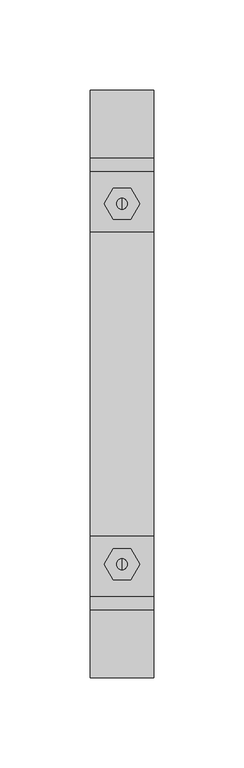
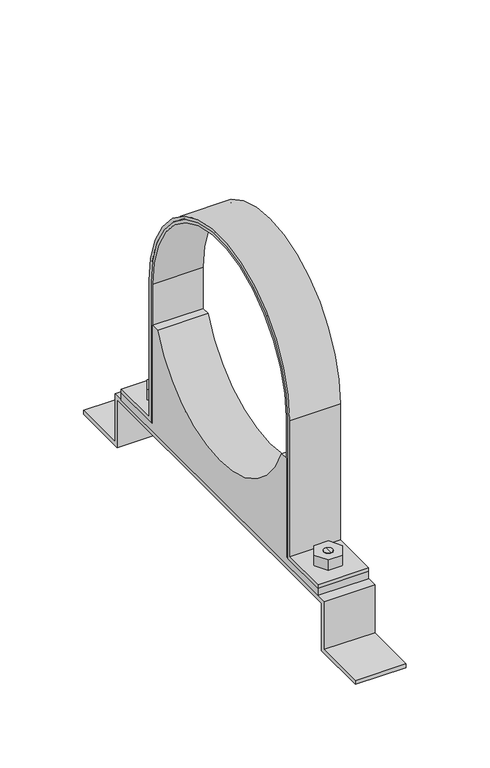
"""IFC4 building model written with IfcOpenShell, lengths in millimetres: valve geometry, Superfix DG3 Clamp (based on pipe) : Superfix DG3 Clamp (based on pipe)."""

from ifc_helpers import new_model, si_unit, point, frame, frame_2d, origin, place, context, project, spatial, polyline, circle_curve, trimmed, segment, composite_curve, outline, extrude, source, transform, mapped, element, save
from ifc_brep_helpers import plane_surface, cylinder_surface, advanced_brep


def valve_bf0c94fa(model_context):
    return source(origin(), model_context, "Body", "SolidModel", [
        advanced_brep(
        [(0.0, 102.75, 21.75), (0.0, 96.75, 21.75), (0.0, 96.75, 34.75), (0.0, 102.75, 34.75), (0.0, 99.75, 21.75)],
        [
            (0, 1, circle_curve(frame((0.0, 99.75, 21.75), z_axis=(0.0, 0.0, 1.0), x_axis=(0.0, 1.0, 0.0)), 3.0)),
            (1, 2),
            (2, 3, circle_curve(frame((0.0, 99.75, 34.75), z_axis=(0.0, 0.0, -1.0), x_axis=(0.0, 1.0, 0.0)), 3.0)),
            (3, 0),
            (1, 0, circle_curve(frame((0.0, 99.75, 21.75), z_axis=(0.0, 0.0, 1.0), x_axis=(0.0, 1.0, 0.0)), 3.0)),
            (3, 2, circle_curve(frame((0.0, 99.75, 34.75), z_axis=(0.0, 0.0, -1.0), x_axis=(0.0, 1.0, 0.0)), 3.0)),
            (0, 4),
            (4, 1),
        ],
        [
            cylinder_surface(frame((0.0, 99.75, 143.0306094), z_axis=(0.0, 0.0, 1.0), x_axis=(0.0, 1.0, 0.0)), 3.0),
            plane_surface(frame((0.0, 99.75, 21.75), z_axis=(0.0, 0.0, -1.0), x_axis=(0.0, 1.0, 0.0))),
            plane_surface(frame((13.75, -117.5, 34.75), z_axis=(0.0, 0.0, 1.0), x_axis=(-1.0, 0.0, 0.0))),
        ],
        [
            (0, [[1, 2, 3, 4]]),
            (0, [[5, -4, 6, -2]]),
            (1, [[-1, 7, 8]]),
            (1, [[-5, -8, -7]]),
            (2, [[-3, -6]]),
        ],
    ),
        advanced_brep(
        [(0.0, 96.75, 53.5), (0.0, 102.75, 53.5), (0.0, 102.75, 42.75), (0.0, 96.75, 42.75), (0.0, 99.75, 53.5)],
        [
            (0, 1, circle_curve(frame((0.0, 99.75, 53.5), z_axis=(0.0, 0.0, -1.0), x_axis=(0.0, 1.0, 0.0)), 3.0)),
            (1, 2),
            (2, 3, circle_curve(frame((0.0, 99.75, 42.75), z_axis=(0.0, 0.0, 1.0), x_axis=(0.0, 1.0, 0.0)), 3.0)),
            (3, 0),
            (1, 0, circle_curve(frame((0.0, 99.75, 53.5), z_axis=(0.0, 0.0, -1.0), x_axis=(0.0, 1.0, 0.0)), 3.0)),
            (3, 2, circle_curve(frame((0.0, 99.75, 42.75), z_axis=(0.0, 0.0, 1.0), x_axis=(0.0, 1.0, 0.0)), 3.0)),
            (0, 4),
            (4, 1),
        ],
        [
            cylinder_surface(frame((0.0, 99.75, 143.0306094), z_axis=(0.0, 0.0, 1.0), x_axis=(0.0, 1.0, 0.0)), 3.0),
            plane_surface(frame((0.0, 99.75, 53.5), z_axis=(0.0, 0.0, 1.0), x_axis=(0.0, 1.0, 0.0))),
            plane_surface(frame((13.75, 117.5, 42.75), z_axis=(0.0, 0.0, -1.0), x_axis=(-1.0, 0.0, 0.0))),
        ],
        [
            (0, [[1, 2, 3, 4]]),
            (0, [[5, -4, 6, -2]]),
            (1, [[-1, 7, 8]]),
            (1, [[-5, -8, -7]]),
            (2, [[-3, -6]]),
        ],
    ),
        advanced_brep(
        [(0.0, -102.75, 53.5), (0.0, -96.75, 53.5), (0.0, -96.75, 42.75), (0.0, -102.75, 42.75), (0.0, -99.75, 53.5)],
        [
            (0, 1, circle_curve(frame((0.0, -99.75, 53.5), z_axis=(0.0, 0.0, -1.0), x_axis=(0.0, -1.0, 0.0)), 3.0)),
            (1, 2),
            (2, 3, circle_curve(frame((0.0, -99.75, 42.75), z_axis=(0.0, 0.0, 1.0), x_axis=(0.0, -1.0, 0.0)), 3.0)),
            (3, 0),
            (1, 0, circle_curve(frame((0.0, -99.75, 53.5), z_axis=(0.0, 0.0, -1.0), x_axis=(0.0, -1.0, 0.0)), 3.0)),
            (3, 2, circle_curve(frame((0.0, -99.75, 42.75), z_axis=(0.0, 0.0, 1.0), x_axis=(0.0, -1.0, 0.0)), 3.0)),
            (0, 4),
            (4, 1),
        ],
        [
            cylinder_surface(frame((0.0, -99.75, 143.0306094), z_axis=(0.0, 0.0, -1.0), x_axis=(0.0, -1.0, 0.0)), 3.0),
            plane_surface(frame((0.0, -99.75, 53.5), z_axis=(0.0, 0.0, 1.0), x_axis=(0.0, -1.0, 0.0))),
            plane_surface(frame((13.75, 117.5, 42.75), z_axis=(0.0, 0.0, -1.0), x_axis=(-1.0, 0.0, 0.0))),
        ],
        [
            (0, [[1, 2, 3, 4]]),
            (0, [[5, -4, 6, -2]]),
            (1, [[-1, 7, 8]]),
            (1, [[-5, -8, -7]]),
            (2, [[-3, -6]]),
        ],
    ),
        advanced_brep(
        [(0.0, -96.75, 21.75), (0.0, -102.75, 21.75), (0.0, -102.75, 34.75), (0.0, -96.75, 34.75), (0.0, -99.75, 21.75)],
        [
            (0, 1, circle_curve(frame((0.0, -99.75, 21.75), z_axis=(0.0, 0.0, 1.0), x_axis=(0.0, -1.0, 0.0)), 3.0)),
            (1, 2),
            (2, 3, circle_curve(frame((0.0, -99.75, 34.75), z_axis=(0.0, 0.0, -1.0), x_axis=(0.0, -1.0, 0.0)), 3.0)),
            (3, 0),
            (1, 0, circle_curve(frame((0.0, -99.75, 21.75), z_axis=(0.0, 0.0, 1.0), x_axis=(0.0, -1.0, 0.0)), 3.0)),
            (3, 2, circle_curve(frame((0.0, -99.75, 34.75), z_axis=(0.0, 0.0, -1.0), x_axis=(0.0, -1.0, 0.0)), 3.0)),
            (0, 4),
            (4, 1),
        ],
        [
            cylinder_surface(frame((0.0, -99.75, 143.0306094), z_axis=(0.0, 0.0, -1.0), x_axis=(0.0, -1.0, 0.0)), 3.0),
            plane_surface(frame((0.0, -99.75, 21.75), z_axis=(0.0, 0.0, -1.0), x_axis=(0.0, -1.0, 0.0))),
            plane_surface(frame((13.75, -117.5, 34.75), z_axis=(0.0, 0.0, 1.0), x_axis=(-1.0, 0.0, 0.0))),
        ],
        [
            (0, [[1, 2, 3, 4]]),
            (0, [[5, -4, 6, -2]]),
            (1, [[-1, 7, 8]]),
            (1, [[-5, -8, -7]]),
            (2, [[-3, -6]]),
        ],
    ),
        extrude(outline(composite_curve([segment(trimmed(circle_curve(frame_2d((0.0, 144.75)), 82.0), [point((82.0, 144.75))], [point((-82.0, 144.75))], True, "CARTESIAN"), True, "CONTINUOUS"), segment(polyline([(-82.0, 144.75), (-82.0, 42.75), (-117.5, 42.75), (-117.5, 45.5), (-84.0, 45.5), (-84.0, 144.75)]), True, "CONTINUOUS"), segment(trimmed(circle_curve(frame_2d((0.0, 144.75)), 84.0), [point((-84.0, 144.75))], [point((84.0, 144.75))], False, "CARTESIAN"), True, "CONTINUOUS"), segment(polyline([(84.0, 144.75), (84.0, 45.5), (117.5, 45.5), (117.5, 42.75), (82.0, 42.75), (82.0, 144.75)]), True, "CONTINUOUS")], self_intersect=False)), frame((-17.5, 0.0, 0.0), z_axis=(1.0, 0.0, 0.0), x_axis=(0.0, 1.0, 0.0)), (0.0, 0.0, 1.0), 35.0),
        extrude(outline(polyline([(9.8149546, -99.75), (4.9074773, -108.25), (-4.9074773, -108.25), (-9.8149546, -99.75), (-4.9074773, -91.25), (4.9074773, -91.25), (9.8149546, -99.75)]), holes=[composite_curve([segment(trimmed(circle_curve(frame_2d((0.0, -99.75)), 3.0), [point((3.0, -99.75))], [point((-3.0, -99.75))], True, "CARTESIAN"), True, "CONTINUOUS"), segment(trimmed(circle_curve(frame_2d((0.0, -99.75)), 3.0), [point((-3.0, -99.75))], [point((3.0, -99.75))], True, "CARTESIAN"), True, "CONTINUOUS")], self_intersect=False)]), frame((0.0, 0.0, 45.5), z_axis=(0.0, 0.0, 1.0), x_axis=(1.0, 0.0, 0.0)), (0.0, 0.0, 1.0), 8.0),
        extrude(outline(polyline([(9.8149546, 99.75), (4.9074773, 91.25), (-4.9074773, 91.25), (-9.8149546, 99.75), (-4.9074773, 108.25), (4.9074773, 108.25), (9.8149546, 99.75)]), holes=[composite_curve([segment(trimmed(circle_curve(frame_2d((0.0, 99.75)), 3.0), [point((3.0, 99.75))], [point((-3.0, 99.75))], True, "CARTESIAN"), True, "CONTINUOUS"), segment(trimmed(circle_curve(frame_2d((0.0, 99.75)), 3.0), [point((-3.0, 99.75))], [point((3.0, 99.75))], True, "CARTESIAN"), True, "CONTINUOUS")], self_intersect=False)]), frame((0.0, 0.0, 45.5), z_axis=(0.0, 0.0, 1.0), x_axis=(1.0, 0.0, 0.0)), (0.0, 0.0, 1.0), 8.0),
        extrude(outline(polyline([(9.8149546, -99.75), (4.9074773, -108.25), (-4.9074773, -108.25), (-9.8149546, -99.75), (-4.9074773, -91.25), (4.9074773, -91.25), (9.8149546, -99.75)]), holes=[composite_curve([segment(trimmed(circle_curve(frame_2d((0.0, -99.75)), 3.0), [point((3.0, -99.75))], [point((-3.0, -99.75))], True, "CARTESIAN"), True, "CONTINUOUS"), segment(trimmed(circle_curve(frame_2d((0.0, -99.75)), 3.0), [point((-3.0, -99.75))], [point((3.0, -99.75))], True, "CARTESIAN"), True, "CONTINUOUS")], self_intersect=False)]), frame((0.0, 0.0, 26.75), z_axis=(0.0, 0.0, 1.0), x_axis=(1.0, 0.0, 0.0)), (0.0, 0.0, 1.0), 8.0),
        extrude(outline(polyline([(9.8149546, 99.75), (4.9074773, 91.25), (-4.9074773, 91.25), (-9.8149546, 99.75), (-4.9074773, 108.25), (4.9074773, 108.25), (9.8149546, 99.75)]), holes=[composite_curve([segment(trimmed(circle_curve(frame_2d((0.0, 99.75)), 3.0), [point((3.0, 99.75))], [point((-3.0, 99.75))], True, "CARTESIAN"), True, "CONTINUOUS"), segment(trimmed(circle_curve(frame_2d((0.0, 99.75)), 3.0), [point((-3.0, 99.75))], [point((3.0, 99.75))], True, "CARTESIAN"), True, "CONTINUOUS")], self_intersect=False)]), frame((0.0, 0.0, 26.75), z_axis=(0.0, 0.0, 1.0), x_axis=(1.0, 0.0, 0.0)), (0.0, 0.0, 1.0), 8.0),
        extrude(outline(composite_curve([segment(polyline([(-117.5, 37.5), (-117.5, 42.75), (-80.0, 42.75), (-80.0, 114.75), (-74.1619849, 114.75)]), True, "CONTINUOUS"), segment(trimmed(circle_curve(frame_2d((0.0, 144.75)), 80.0), [point((-74.1619849, 114.75))], [point((74.1619849, 114.75))], True, "CARTESIAN"), True, "CONTINUOUS"), segment(polyline([(74.1619849, 114.75), (80.0, 114.75), (80.0, 42.75), (117.5, 42.75), (117.5, 37.5), (-117.5, 37.5)]), True, "CONTINUOUS")], self_intersect=False)), frame((-17.5, 0.0, 0.0), z_axis=(1.0, 0.0, 0.0), x_axis=(0.0, 1.0, 0.0)), (0.0, 0.0, 1.0), 35.0),
        extrude(outline(polyline([(-162.5, 2.75), (-125.0, 2.75), (-125.0, 37.5), (0.0, 37.5), (125.0, 37.5), (125.0, 2.75), (162.5, 2.75), (162.5, 0.0), (122.25, 0.0), (122.25, 34.75), (0.0, 34.75), (-122.25, 34.75), (-122.25, 0.0), (-162.5, 0.0), (-162.5, 2.75)])), frame((-17.5, 0.0, 0.0), z_axis=(1.0, 0.0, 0.0), x_axis=(0.0, 1.0, 0.0)), (0.0, 0.0, 1.0), 35.0),
        extrude(outline(composite_curve([segment(trimmed(circle_curve(frame_2d((0.0, 144.75)), 80.0), [point((80.0, 144.75))], [point((-80.0, 144.75))], True, "CARTESIAN"), True, "CONTINUOUS"), segment(polyline([(-80.0, 144.75), (-80.0, 42.75), (-82.0, 42.75), (-82.0, 144.75)]), True, "CONTINUOUS"), segment(trimmed(circle_curve(frame_2d((0.0, 144.75)), 82.0), [point((-82.0, 144.75))], [point((82.0, 144.75))], False, "CARTESIAN"), True, "CONTINUOUS"), segment(polyline([(82.0, 144.75), (82.0, 42.75), (80.0, 42.75), (80.0, 144.75)]), True, "CONTINUOUS")], self_intersect=False)), frame((-17.5, 0.0, 0.0), z_axis=(1.0, 0.0, 0.0), x_axis=(0.0, 1.0, 0.0)), (0.0, 0.0, 1.0), 35.0),
    ])


if __name__ == "__main__":
    model = new_model("IFC4")
    model_context = context("Model", 3, world=origin())
    ifc_project = project(units=[si_unit("LENGTHUNIT", "METRE", prefix="MILLI")], contexts=[model_context])
    site = spatial("IfcSite", under=ifc_project)
    building = spatial("IfcBuilding", under=site)
    placement = place(None, origin())
    valve_shape = valve_bf0c94fa(model_context)
    element("IfcValve", 1, ObjectType="Superfix DG3 Clamp (based on pipe) : Superfix DG3 Clamp (based on pipe)", at=placement, inside=building, context=model_context, shape_type="MappedRepresentation", body=[
        mapped(valve_shape, transform((0.0, 0.0, 0.0), x_axis=(1.0, 0.0, 0.0), y_axis=(0.0, 1.0, 0.0), z_axis=(0.0, 0.0, 1.0))),
    ])
    save(model, "model.ifc")
